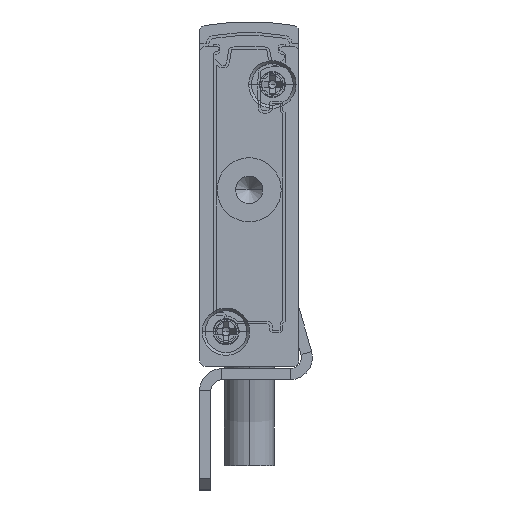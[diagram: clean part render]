
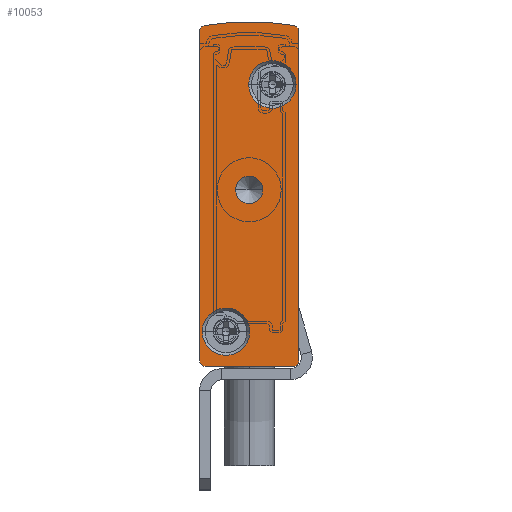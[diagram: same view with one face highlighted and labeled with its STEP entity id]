
A CAD part, front view. The second image highlights one B-rep face of the part: STEP entity #10053.
In plain terms, the highlighted planar face has unit normal (0, -1, 0).
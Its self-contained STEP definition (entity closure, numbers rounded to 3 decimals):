
#266 = AXIS2_PLACEMENT_3D ( 'NONE', #2426, #21153, #15740 ) ;
#350 = CARTESIAN_POINT ( 'NONE',  ( -8.75, -2.5, 3.15 ) ) ;
#673 = AXIS2_PLACEMENT_3D ( 'NONE', #7662, #22481, #15276 ) ;
#1514 = ORIENTED_EDGE ( 'NONE', *, *, #11460, .F. ) ;
#1645 = EDGE_CURVE ( 'NONE', #17687, #17928, #5040, .T. ) ;
#1940 = VERTEX_POINT ( 'NONE', #10898 ) ;
#2249 = DIRECTION ( 'NONE',  ( 0., 1., 0. ) ) ;
#2426 = CARTESIAN_POINT ( 'NONE',  ( -8.5, -2.5, 30.402 ) ) ;
#2548 = DIRECTION ( 'NONE',  ( -1., 0., 0. ) ) ;
#2825 = CARTESIAN_POINT ( 'NONE',  ( -4.5, -2.5, 16. ) ) ;
#2899 = EDGE_CURVE ( 'NONE', #21326, #10780, #16579, .T. ) ;
#3074 = AXIS2_PLACEMENT_3D ( 'NONE', #17276, #13911, #19057 ) ;
#3708 = EDGE_CURVE ( 'NONE', #7548, #1940, #23138, .T. ) ;
#3767 = VECTOR ( 'NONE', #9756, 1000. ) ;
#3915 = EDGE_CURVE ( 'NONE', #10780, #4104, #19873, .T. ) ;
#4104 = VERTEX_POINT ( 'NONE', #20446 ) ;
#4545 = FACE_BOUND ( 'NONE', #20908, .T. ) ;
#5040 = CIRCLE ( 'NONE', #7730, 2.15 ) ;
#5234 = ORIENTED_EDGE ( 'NONE', *, *, #20653, .T. ) ;
#5346 = ORIENTED_EDGE ( 'NONE', *, *, #15986, .F. ) ;
#5369 = CIRCLE ( 'NONE', #14463, 1.25 ) ;
#5608 = AXIS2_PLACEMENT_3D ( 'NONE', #14385, #21646, #18081 ) ;
#5649 = EDGE_CURVE ( 'NONE', #17928, #17687, #12661, .T. ) ;
#5931 = ORIENTED_EDGE ( 'NONE', *, *, #9029, .F. ) ;
#6011 = DIRECTION ( 'NONE',  ( 0., 0., 1. ) ) ;
#6113 = DIRECTION ( 'NONE',  ( 0., -1., 0. ) ) ;
#6180 = CARTESIAN_POINT ( 'NONE',  ( -8.5, -2.5, 0. ) ) ;
#6377 = DIRECTION ( 'NONE',  ( -1., 0., 0. ) ) ;
#6749 = ORIENTED_EDGE ( 'NONE', *, *, #22558, .T. ) ;
#6885 = DIRECTION ( 'NONE',  ( -1., 0., 0. ) ) ;
#7457 = VERTEX_POINT ( 'NONE', #20510 ) ;
#7520 = CARTESIAN_POINT ( 'NONE',  ( -4.55, -2.5, 25.55 ) ) ;
#7548 = VERTEX_POINT ( 'NONE', #6180 ) ;
#7662 = CARTESIAN_POINT ( 'NONE',  ( -6.6, -2.5, 3.15 ) ) ;
#7730 = AXIS2_PLACEMENT_3D ( 'NONE', #8583, #10277, #19458 ) ;
#7987 = EDGE_LOOP ( 'NONE', ( #11632, #16471, #17865, #5346, #1514, #5931, #15145, #18488 ) ) ;
#8048 = FACE_OUTER_BOUND ( 'NONE', #7987, .T. ) ;
#8583 = CARTESIAN_POINT ( 'NONE',  ( -6.6, -2.5, 3.15 ) ) ;
#8587 = EDGE_CURVE ( 'NONE', #1940, #21326, #19757, .T. ) ;
#8733 = CARTESIAN_POINT ( 'NONE',  ( -9., -2.5, 30.402 ) ) ;
#8752 = LINE ( 'NONE', #15388, #3767 ) ;
#8852 = VERTEX_POINT ( 'NONE', #16717 ) ;
#8888 = CIRCLE ( 'NONE', #18245, 2.15 ) ;
#9029 = EDGE_CURVE ( 'NONE', #7457, #11743, #8752, .T. ) ;
#9239 = CARTESIAN_POINT ( 'NONE',  ( -0.5, -2.5, 0. ) ) ;
#9633 = VERTEX_POINT ( 'NONE', #7520 ) ;
#9657 = DIRECTION ( 'NONE',  ( 1., 0., 0. ) ) ;
#9694 = VERTEX_POINT ( 'NONE', #15691 ) ;
#9700 = CARTESIAN_POINT ( 'NONE',  ( -9., -2.5, 30.402 ) ) ;
#9756 = DIRECTION ( 'NONE',  ( 0., 0., -1. ) ) ;
#9868 = ORIENTED_EDGE ( 'NONE', *, *, #5649, .F. ) ;
#9984 = LINE ( 'NONE', #21447, #14048 ) ;
#10053 = ADVANCED_FACE ( 'NONE', ( #18751, #21373, #8048, #4545 ), #23055, .F. ) ;
#10277 = DIRECTION ( 'NONE',  ( 0., -1., 0. ) ) ;
#10780 = VERTEX_POINT ( 'NONE', #17435 ) ;
#10841 = CARTESIAN_POINT ( 'NONE',  ( -4.5, -2.5, 16. ) ) ;
#10898 = CARTESIAN_POINT ( 'NONE',  ( -9., -2.5, 0.5 ) ) ;
#11128 = EDGE_CURVE ( 'NONE', #4104, #7457, #22627, .T. ) ;
#11171 = DIRECTION ( 'NONE',  ( 0., -1., 0. ) ) ;
#11318 = CARTESIAN_POINT ( 'NONE',  ( -0.25, -2.5, 25.55 ) ) ;
#11322 = DIRECTION ( 'NONE',  ( -1., 0., 0. ) ) ;
#11460 = EDGE_CURVE ( 'NONE', #11743, #17815, #18269, .T. ) ;
#11617 = CARTESIAN_POINT ( 'NONE',  ( -2.4, -2.5, 25.55 ) ) ;
#11632 = ORIENTED_EDGE ( 'NONE', *, *, #2899, .F. ) ;
#11743 = VERTEX_POINT ( 'NONE', #16442 ) ;
#12661 = CIRCLE ( 'NONE', #673, 2.15 ) ;
#12686 = ORIENTED_EDGE ( 'NONE', *, *, #12775, .F. ) ;
#12775 = EDGE_CURVE ( 'NONE', #9633, #23074, #8888, .T. ) ;
#13222 = CARTESIAN_POINT ( 'NONE',  ( -0.5, -2.5, 0.5 ) ) ;
#13474 = CARTESIAN_POINT ( 'NONE',  ( -8.5, -2.5, 0.5 ) ) ;
#13911 = DIRECTION ( 'NONE',  ( 0., 1., 0. ) ) ;
#14040 = ORIENTED_EDGE ( 'NONE', *, *, #1645, .F. ) ;
#14048 = VECTOR ( 'NONE', #6377, 1000. ) ;
#14385 = CARTESIAN_POINT ( 'NONE',  ( -4.5, -2.5, 7.592 ) ) ;
#14463 = AXIS2_PLACEMENT_3D ( 'NONE', #10841, #23487, #6885 ) ;
#14511 = EDGE_LOOP ( 'NONE', ( #18888, #12686 ) ) ;
#14882 = CARTESIAN_POINT ( 'NONE',  ( -4.45, -2.5, 3.15 ) ) ;
#15145 = ORIENTED_EDGE ( 'NONE', *, *, #11128, .F. ) ;
#15276 = DIRECTION ( 'NONE',  ( 1., 0., 0. ) ) ;
#15388 = CARTESIAN_POINT ( 'NONE',  ( 0., -2.5, 30.402 ) ) ;
#15531 = AXIS2_PLACEMENT_3D ( 'NONE', #21194, #17566, #2548 ) ;
#15691 = CARTESIAN_POINT ( 'NONE',  ( -5.75, -2.5, 16. ) ) ;
#15740 = DIRECTION ( 'NONE',  ( -1., 0., 0. ) ) ;
#15986 = EDGE_CURVE ( 'NONE', #17815, #7548, #9984, .T. ) ;
#16049 = AXIS2_PLACEMENT_3D ( 'NONE', #17011, #11171, #9657 ) ;
#16081 = VECTOR ( 'NONE', #6011, 1000. ) ;
#16442 = CARTESIAN_POINT ( 'NONE',  ( 0., -2.5, 0.5 ) ) ;
#16471 = ORIENTED_EDGE ( 'NONE', *, *, #8587, .F. ) ;
#16579 = CIRCLE ( 'NONE', #15531, 0.5 ) ;
#16717 = CARTESIAN_POINT ( 'NONE',  ( -3.25, -2.5, 16. ) ) ;
#17011 = CARTESIAN_POINT ( 'NONE',  ( -2.4, -2.5, 25.55 ) ) ;
#17276 = CARTESIAN_POINT ( 'NONE',  ( -0.5, -2.5, 30.402 ) ) ;
#17435 = CARTESIAN_POINT ( 'NONE',  ( -8.592, -2.5, 30.893 ) ) ;
#17507 = CIRCLE ( 'NONE', #16049, 2.15 ) ;
#17516 = DIRECTION ( 'NONE',  ( 0., 1., 0. ) ) ;
#17566 = DIRECTION ( 'NONE',  ( 0., 1., 0. ) ) ;
#17687 = VERTEX_POINT ( 'NONE', #14882 ) ;
#17815 = VERTEX_POINT ( 'NONE', #9239 ) ;
#17865 = ORIENTED_EDGE ( 'NONE', *, *, #3708, .F. ) ;
#17928 = VERTEX_POINT ( 'NONE', #350 ) ;
#18081 = DIRECTION ( 'NONE',  ( -1., 0., 0. ) ) ;
#18245 = AXIS2_PLACEMENT_3D ( 'NONE', #11617, #6113, #22649 ) ;
#18269 = CIRCLE ( 'NONE', #23723, 0.5 ) ;
#18488 = ORIENTED_EDGE ( 'NONE', *, *, #3915, .F. ) ;
#18751 = FACE_BOUND ( 'NONE', #14511, .T. ) ;
#18888 = ORIENTED_EDGE ( 'NONE', *, *, #23043, .F. ) ;
#19057 = DIRECTION ( 'NONE',  ( -1., 0., 0. ) ) ;
#19458 = DIRECTION ( 'NONE',  ( 1., 0., 0. ) ) ;
#19757 = LINE ( 'NONE', #9700, #16081 ) ;
#19873 = CIRCLE ( 'NONE', #5608, 23.658 ) ;
#20446 = CARTESIAN_POINT ( 'NONE',  ( -0.408, -2.5, 30.893 ) ) ;
#20510 = CARTESIAN_POINT ( 'NONE',  ( 0., -2.5, 30.402 ) ) ;
#20653 = EDGE_CURVE ( 'NONE', #9694, #8852, #5369, .T. ) ;
#20767 = EDGE_LOOP ( 'NONE', ( #14040, #9868 ) ) ;
#20817 = DIRECTION ( 'NONE',  ( -1., 0., 0. ) ) ;
#20908 = EDGE_LOOP ( 'NONE', ( #5234, #6749 ) ) ;
#21153 = DIRECTION ( 'NONE',  ( 0., 1., 0. ) ) ;
#21194 = CARTESIAN_POINT ( 'NONE',  ( -8.5, -2.5, 30.402 ) ) ;
#21313 = DIRECTION ( 'NONE',  ( -1., 0., 0. ) ) ;
#21326 = VERTEX_POINT ( 'NONE', #8733 ) ;
#21373 = FACE_BOUND ( 'NONE', #20767, .T. ) ;
#21447 = CARTESIAN_POINT ( 'NONE',  ( -8.5, -2.5, 0. ) ) ;
#21629 = AXIS2_PLACEMENT_3D ( 'NONE', #2825, #17516, #21313 ) ;
#21646 = DIRECTION ( 'NONE',  ( 0., 1., 0. ) ) ;
#22442 = DIRECTION ( 'NONE',  ( 0., 1., 0. ) ) ;
#22481 = DIRECTION ( 'NONE',  ( 0., -1., 0. ) ) ;
#22558 = EDGE_CURVE ( 'NONE', #8852, #9694, #23354, .T. ) ;
#22627 = CIRCLE ( 'NONE', #3074, 0.5 ) ;
#22649 = DIRECTION ( 'NONE',  ( 1., 0., 0. ) ) ;
#23043 = EDGE_CURVE ( 'NONE', #23074, #9633, #17507, .T. ) ;
#23055 = PLANE ( 'NONE',  #266 ) ;
#23074 = VERTEX_POINT ( 'NONE', #11318 ) ;
#23138 = CIRCLE ( 'NONE', #23934, 0.5 ) ;
#23354 = CIRCLE ( 'NONE', #21629, 1.25 ) ;
#23487 = DIRECTION ( 'NONE',  ( 0., 1., 0. ) ) ;
#23723 = AXIS2_PLACEMENT_3D ( 'NONE', #13222, #22442, #11322 ) ;
#23934 = AXIS2_PLACEMENT_3D ( 'NONE', #13474, #2249, #20817 ) ;
